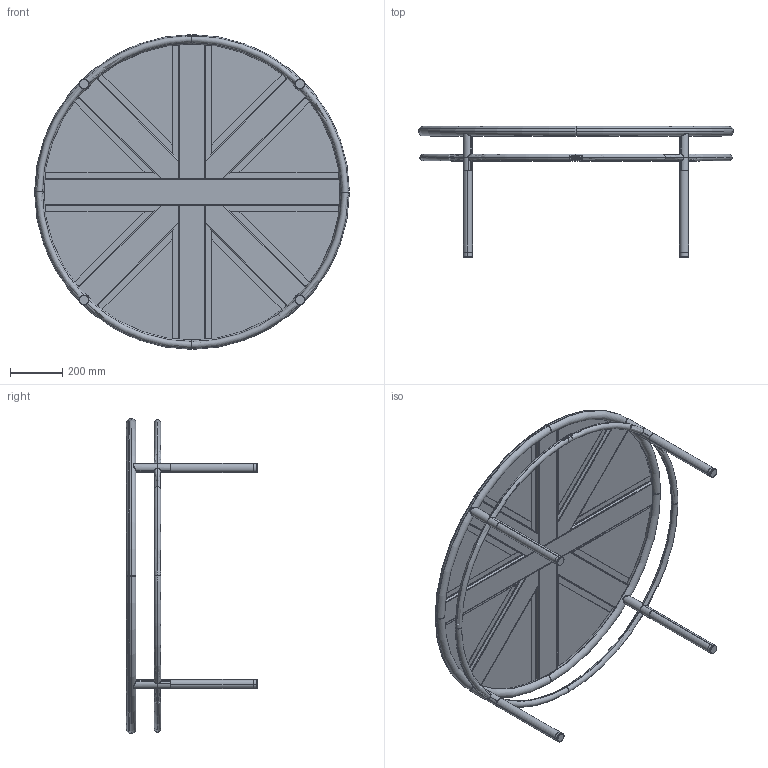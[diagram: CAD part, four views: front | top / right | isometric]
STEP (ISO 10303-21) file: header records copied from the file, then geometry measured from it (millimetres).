
FILE_DESCRIPTION (( 'STEP AP203' ), '1' );
FILE_NAME ('11430-TABLE CAFE T37 Ø120.STEP', '2025-02-17T12:40:59', ( '' ), ( '' ), 'SwSTEP 2.0', 'SolidWorks 2023', '' );
FILE_SCHEMA (( 'CONFIG_CONTROL_DESIGN' ));
Length unit declared in the file: millimetre
Products named in the file (15): C.04.M3D10648-A-MANCHON TUBE DE PIED Ø35; C.04.M3D10658-A-RENFORT DE PLATEAU TABLE T37 Ø120; C.04.M3D11127-RENFORT DE PLATEAU N°3 TABLE T37 Ø120; C-04-M3D10763-PLAQUE TOLIX GRAVEE GALBEE 50X14X1.5; C.04.M3D10652-A-PLATEAU DE TABLE T37 Ø120 BRUT; C.04.M3D10659-a-RENFORT N°2 TABLE T37 Ø120; C.04.M3D10655-DEMI-CHASSIS CINTRE TABLE T37 Ø120; C.04.M3D10645-TUBE DE JONCTION PIED; RIVET; C.04.M3D11887-TUBE DE PIED TABLE CAFE T37; EMBOUT Ø35; C.04.M3D10712-TUBE DE JONCTION; C.04.M3D10657-QUART DE CEINTURE TABLE T37 Ø120; 11430-TABLE CAFE T37 Ø120; C.04.M3D10653-a-PLATEAU TABLE T37 Ø120
Assembly tree (32 placements, depth 4):
  11430-TABLE CAFE T37 Ø120
    C.04.M3D10652-A-PLATEAU DE TABLE T37 Ø120 BRUT
      C.04.M3D10653-a-PLATEAU TABLE T37 Ø120
      C.04.M3D10655-DEMI-CHASSIS CINTRE TABLE T37 Ø120  x2
      C.04.M3D10658-A-RENFORT DE PLATEAU TABLE T37 Ø120
      C.04.M3D10657-QUART DE CEINTURE TABLE T37 Ø120  x4
      C.04.M3D10645-TUBE DE JONCTION PIED  x4
        C.04.M3D10712-TUBE DE JONCTION
        C.04.M3D10648-A-MANCHON TUBE DE PIED Ø35
      C.04.M3D10659-a-RENFORT N°2 TABLE T37 Ø120  x2
      C.04.M3D11127-RENFORT DE PLATEAU N°3 TABLE T37 Ø120  x4
    C-04-M3D10763-PLAQUE TOLIX GRAVEE GALBEE 50X14X1.5
    RIVET  x2
    C.04.M3D11887-TUBE DE PIED TABLE CAFE T37  x4
    EMBOUT Ø35  x4
Bounding box: 1200 x 499.8 x 1200 mm (x, y, z)
Volume: 3558280.2 mm3; surface area: 5396886.5 mm2
Topology: 33 solids, 33 shells, 1010 faces, 2549 edges, 1614 vertices
Faces by surface type: plane 579, cylinder 199, bspline 154, torus 64, cone 10, sphere 4
Entity records: 29296 total; most frequent: CARTESIAN_POINT 11422, ORIENTED_EDGE 3620, DIRECTION 2772, EDGE_CURVE 1810, VERTEX_POINT 1178, LINE 1098, VECTOR 1098, AXIS2_PLACEMENT_3D 837
